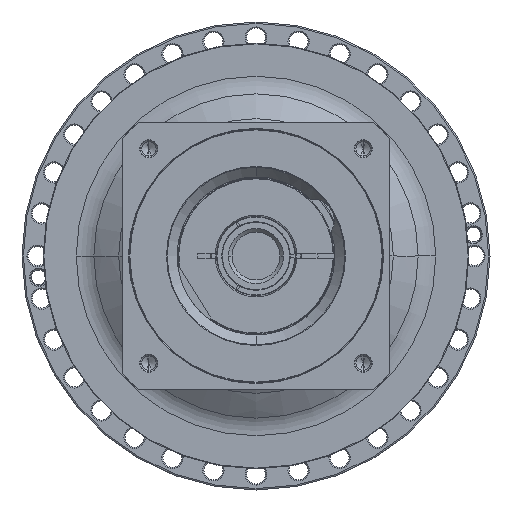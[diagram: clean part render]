
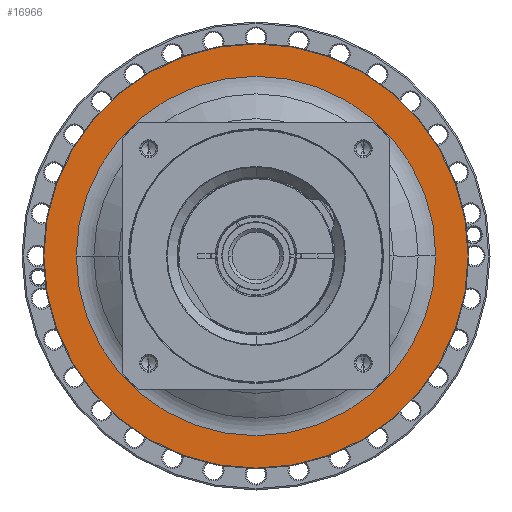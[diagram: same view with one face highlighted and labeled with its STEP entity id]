
A CAD part, left-side view. The second image highlights one B-rep face of the part: STEP entity #16966.
In plain terms, the highlighted planar face has unit normal (-1, 0, 0) as drawn and (1, 0, 0) by its records, which use the part's own axes.
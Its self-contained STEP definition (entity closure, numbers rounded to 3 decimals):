
#16397=CARTESIAN_POINT('',(-31.,0.,0.));
#16398=DIRECTION('',(-1.,0.,0.));
#16399=DIRECTION('',(0.,-1.,0.));
#16400=AXIS2_PLACEMENT_3D('',#16397,#16398,#16399);
#16402=CARTESIAN_POINT('',(-31.,0.,0.));
#16403=DIRECTION('',(-1.,0.,0.));
#16404=DIRECTION('',(0.,1.,0.));
#16405=AXIS2_PLACEMENT_3D('',#16402,#16403,#16404);
#16407=CARTESIAN_POINT('',(-31.,0.,0.));
#16408=DIRECTION('',(1.,0.,0.));
#16409=DIRECTION('',(0.,1.,0.));
#16410=AXIS2_PLACEMENT_3D('',#16407,#16408,#16409);
#16417=CARTESIAN_POINT('',(-31.,0.,0.));
#16418=DIRECTION('',(-1.,0.,0.));
#16419=DIRECTION('',(0.,1.,0.));
#16420=AXIS2_PLACEMENT_3D('',#16417,#16418,#16419);
#16521=CARTESIAN_POINT('',(-31.,-150.5,0.));
#16522=CARTESIAN_POINT('',(-31.,150.5,0.));
#16523=VERTEX_POINT('',#16521);
#16524=VERTEX_POINT('',#16522);
#16549=CARTESIAN_POINT('',(-31.,127.5,0.));
#16551=VERTEX_POINT('',#16549);
#16553=CARTESIAN_POINT('',(-31.,-127.5,0.));
#16555=VERTEX_POINT('',#16553);
#16951=CARTESIAN_POINT('',(-31.,0.,0.));
#16952=DIRECTION('',(1.,0.,0.));
#16953=DIRECTION('',(0.,-1.,0.));
#16954=AXIS2_PLACEMENT_3D('',#16951,#16952,#16953);
#16955=PLANE('',#16954);
#16956=ORIENTED_EDGE('',*,*,#16892,.T.);
#16957=ORIENTED_EDGE('',*,*,#16907,.T.);
#16958=EDGE_LOOP('',(#16956,#16957));
#16959=FACE_OUTER_BOUND('',#16958,.F.);
#16961=ORIENTED_EDGE('',*,*,#16960,.T.);
#16963=ORIENTED_EDGE('',*,*,#16962,.F.);
#16964=EDGE_LOOP('',(#16961,#16963));
#16965=FACE_BOUND('',#16964,.F.);
#16966=ADVANCED_FACE('',(#16959,#16965),#16955,.T.);
#16401=CIRCLE('',#16400,150.5);
#16406=CIRCLE('',#16405,150.5);
#16411=CIRCLE('',#16410,127.5);
#16421=CIRCLE('',#16420,127.5);
#16892=EDGE_CURVE('',#16523,#16524,#16401,.T.);
#16907=EDGE_CURVE('',#16524,#16523,#16406,.T.);
#16960=EDGE_CURVE('',#16551,#16555,#16411,.T.);
#16962=EDGE_CURVE('',#16551,#16555,#16421,.T.);
